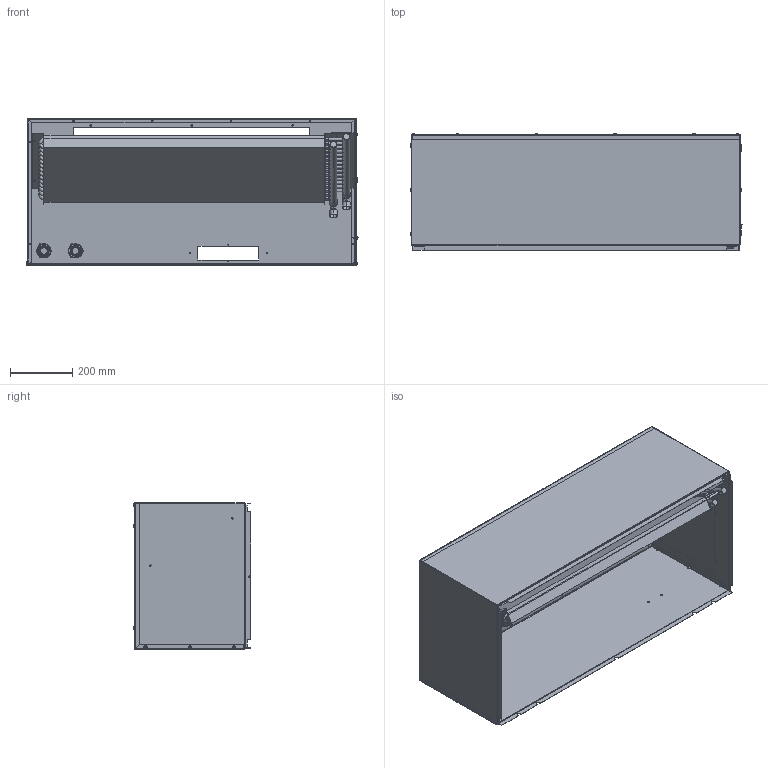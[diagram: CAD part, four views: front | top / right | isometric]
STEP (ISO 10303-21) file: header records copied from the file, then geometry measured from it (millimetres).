
FILE_DESCRIPTION (( 'STEP AP214' ), '1' );
FILE_NAME ('QPBHW42-D-X.STEP', '2016-07-14T18:26:29', ( 'BMC' ), ( 'Bard Manufacturing Co., Inc.' ), 'SwSTEP 2.0', 'SolidWorks 2016', '' );
FILE_SCHEMA (( 'AUTOMOTIVE_DESIGN' ));
Length unit declared in the file: inch
Products named in the file (15): QPBHW42-D-X; 144-133; 142-074; 1012-086; 174-075 for 5060-110; 137Y435; 137X435; 806-0605; 814-0284; 6011-012,; 850-0002; 916-0129; 5060-110; 104-1065; 108-162
Assembly tree (58 placements, depth 4):
  QPBHW42-D-X
    144-133
    142-074
    1012-086  x18
    5060-110
      174-075 for 5060-110
      137Y435
      137X435
      806-0605  x14
      916-0129  x2
        814-0284
        6011-012,
        850-0002
    104-1065
    108-162
Bounding box: 1070.6 x 377.68 x 473.87 mm (x, y, z)
Surface area: 6619751.1 mm2 (no closed solid volume)
Topology: 0 solids, 71 shells, 2292 faces, 5450 edges, 3444 vertices
Faces by surface type: cylinder 1008, bspline 633, plane 591, cone 52, torus 8
Entity records: 36668 total; most frequent: CARTESIAN_POINT 13208, ORIENTED_EDGE 4792, DIRECTION 4762, EDGE_CURVE 2396, AXIS2_PLACEMENT_3D 1883, VERTEX_POINT 1545, EDGE_LOOP 1253, CIRCLE 1136
